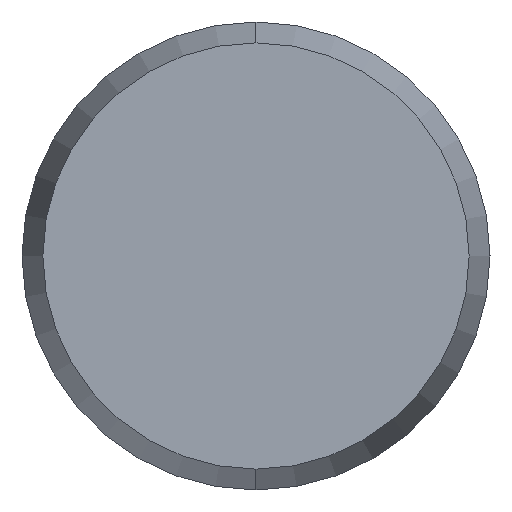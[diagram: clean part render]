
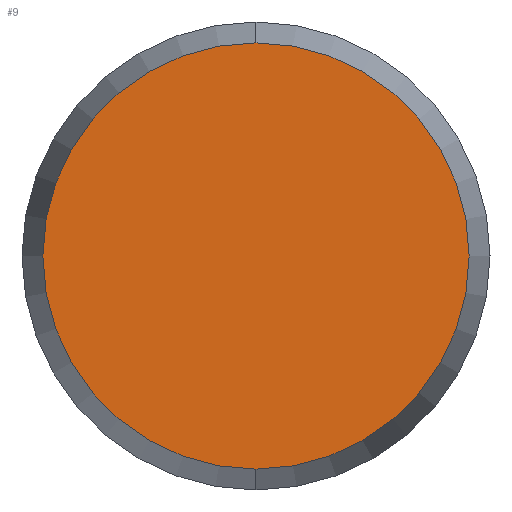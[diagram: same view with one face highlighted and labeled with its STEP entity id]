
A CAD part, left-side view. The second image highlights one B-rep face of the part: STEP entity #9.
In plain terms, the highlighted planar face has unit normal (-1, 0, 0).
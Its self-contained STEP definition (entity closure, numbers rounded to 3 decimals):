
#3 = EDGE_LOOP ( 'NONE', ( #4, #5 ) ) ;
#4 = ORIENTED_EDGE ( 'NONE', *, *, #75, .F. ) ;
#5 = ORIENTED_EDGE ( 'NONE', *, *, #58, .F. ) ;
#9 = ADVANCED_FACE ( 'NONE', ( #16 ), #19, .F. ) ;
#16 = FACE_OUTER_BOUND ( 'NONE', #3, .T. ) ;
#17 = DIRECTION ( 'NONE',  ( 1., 0., 0. ) ) ;
#18 = CARTESIAN_POINT ( 'NONE',  ( -25., 0., 0. ) ) ;
#19 = PLANE ( 'NONE',  #20 ) ;
#20 = AXIS2_PLACEMENT_3D ( 'NONE', #18, #17, #21 ) ;
#21 = DIRECTION ( 'NONE',  ( 0., 0., -1. ) ) ;
#58 = EDGE_CURVE ( 'NONE', #77, #76, #127, .T. ) ;
#75 = EDGE_CURVE ( 'NONE', #76, #77, #155, .T. ) ;
#76 = VERTEX_POINT ( 'NONE', #148 ) ;
#77 = VERTEX_POINT ( 'NONE', #147 ) ;
#123 = DIRECTION ( 'NONE',  ( 0., 0., -1. ) ) ;
#124 = DIRECTION ( 'NONE',  ( 1., 0., 0. ) ) ;
#125 = CARTESIAN_POINT ( 'NONE',  ( -25., 0., 0. ) ) ;
#126 = AXIS2_PLACEMENT_3D ( 'NONE', #125, #124, #123 ) ;
#127 = CIRCLE ( 'NONE', #126, 1.366 ) ;
#147 = CARTESIAN_POINT ( 'NONE',  ( -25., 0., -1.366 ) ) ;
#148 = CARTESIAN_POINT ( 'NONE',  ( -25., 0., 1.366 ) ) ;
#149 = DIRECTION ( 'NONE',  ( 0., 0., -1. ) ) ;
#150 = DIRECTION ( 'NONE',  ( 1., 0., 0. ) ) ;
#151 = CARTESIAN_POINT ( 'NONE',  ( -25., 0., 0. ) ) ;
#152 = AXIS2_PLACEMENT_3D ( 'NONE', #151, #150, #149 ) ;
#155 = CIRCLE ( 'NONE', #152, 1.366 ) ;
